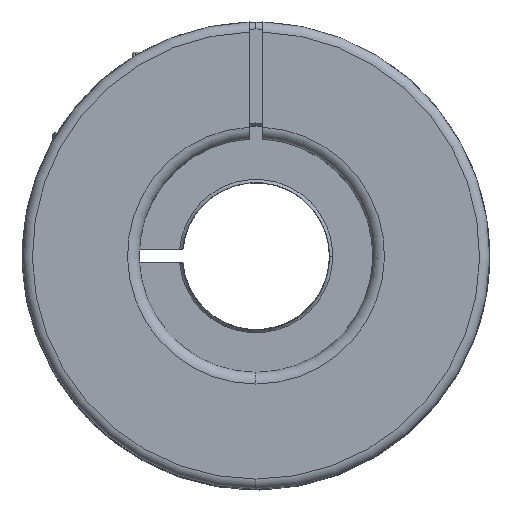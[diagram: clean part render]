
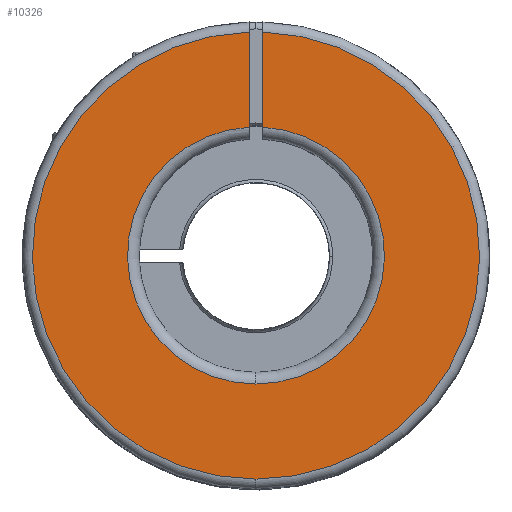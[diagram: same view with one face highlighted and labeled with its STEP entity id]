
A CAD part, top view. The second image highlights one B-rep face of the part: STEP entity #10326.
In plain terms, the highlighted planar face has unit normal (0, 0, 1).
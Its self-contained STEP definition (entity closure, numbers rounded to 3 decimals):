
#9990 = EDGE_CURVE ( 'NONE', #10056, #10064, #15153, .T. ) ;
#10056 = VERTEX_POINT ( 'NONE', #15051 ) ;
#10058 = EDGE_CURVE ( 'NONE', #13451, #10056, #15049, .T. ) ;
#10063 = EDGE_CURVE ( 'NONE', #10064, #13433, #15236, .T. ) ;
#10064 = VERTEX_POINT ( 'NONE', #15232 ) ;
#10240 = ORIENTED_EDGE ( 'NONE', *, *, #10058, .T. ) ;
#10304 = ORIENTED_EDGE ( 'NONE', *, *, #10063, .T. ) ;
#10305 = ORIENTED_EDGE ( 'NONE', *, *, #13432, .T. ) ;
#10306 = ORIENTED_EDGE ( 'NONE', *, *, #10307, .F. ) ;
#10307 = EDGE_CURVE ( 'NONE', #13454, #13434, #15804, .T. ) ;
#10308 = ORIENTED_EDGE ( 'NONE', *, *, #13453, .T. ) ;
#10326 = ADVANCED_FACE ( 'NONE', ( #15780 ), #15779, .F. ) ;
#10327 = EDGE_LOOP ( 'NONE', ( #10328, #10304, #10305, #10306, #10308, #10240 ) ) ;
#10328 = ORIENTED_EDGE ( 'NONE', *, *, #9990, .T. ) ;
#13432 = EDGE_CURVE ( 'NONE', #13433, #13434, #14021, .T. ) ;
#13433 = VERTEX_POINT ( 'NONE', #14016 ) ;
#13434 = VERTEX_POINT ( 'NONE', #14015 ) ;
#13451 = VERTEX_POINT ( 'NONE', #14030 ) ;
#13453 = EDGE_CURVE ( 'NONE', #13454, #13451, #14029, .T. ) ;
#13454 = VERTEX_POINT ( 'NONE', #14024 ) ;
#14015 = CARTESIAN_POINT ( 'NONE',  ( -0.172, 37.159, 62.541 ) ) ;
#14016 = CARTESIAN_POINT ( 'NONE',  ( -1.172, -29.826, 62.541 ) ) ;
#14017 = DIRECTION ( 'NONE',  ( 0., -1., 0. ) ) ;
#14018 = DIRECTION ( 'NONE',  ( 0., 0., 1. ) ) ;
#14019 = CARTESIAN_POINT ( 'NONE',  ( -1.172, 3.674, 62.541 ) ) ;
#14020 = AXIS2_PLACEMENT_3D ( 'NONE', #14019, #14018, #14017 ) ;
#14021 = CIRCLE ( 'NONE', #14020, 33.5 ) ;
#14024 = CARTESIAN_POINT ( 'NONE',  ( -0.172, 22.898, 62.541 ) ) ;
#14025 = DIRECTION ( 'NONE',  ( 0., -1., 0. ) ) ;
#14026 = DIRECTION ( 'NONE',  ( 0., 0., -1. ) ) ;
#14027 = CARTESIAN_POINT ( 'NONE',  ( -1.172, 3.674, 62.541 ) ) ;
#14028 = AXIS2_PLACEMENT_3D ( 'NONE', #14027, #14026, #14025 ) ;
#14029 = CIRCLE ( 'NONE', #14028, 19.25 ) ;
#14030 = CARTESIAN_POINT ( 'NONE',  ( -1.172, -15.576, 62.541 ) ) ;
#15048 = AXIS2_PLACEMENT_3D ( 'NONE', #15052, #15245, #15244 ) ;
#15049 = CIRCLE ( 'NONE', #15048, 19.25 ) ;
#15051 = CARTESIAN_POINT ( 'NONE',  ( -2.172, 22.898, 62.541 ) ) ;
#15052 = CARTESIAN_POINT ( 'NONE',  ( -1.172, 3.674, 62.541 ) ) ;
#15150 = DIRECTION ( 'NONE',  ( 0., 1., 0. ) ) ;
#15151 = VECTOR ( 'NONE', #15150, 1000. ) ;
#15152 = CARTESIAN_POINT ( 'NONE',  ( -2.172, 3.674, 62.541 ) ) ;
#15153 = LINE ( 'NONE', #15152, #15151 ) ;
#15232 = CARTESIAN_POINT ( 'NONE',  ( -2.172, 37.159, 62.541 ) ) ;
#15233 = DIRECTION ( 'NONE',  ( 0., -1., 0. ) ) ;
#15234 = DIRECTION ( 'NONE',  ( 0., 0., 1. ) ) ;
#15235 = AXIS2_PLACEMENT_3D ( 'NONE', #15241, #15234, #15233 ) ;
#15236 = CIRCLE ( 'NONE', #15235, 33.5 ) ;
#15241 = CARTESIAN_POINT ( 'NONE',  ( -1.172, 3.674, 62.541 ) ) ;
#15244 = DIRECTION ( 'NONE',  ( 0., -1., 0. ) ) ;
#15245 = DIRECTION ( 'NONE',  ( 0., 0., -1. ) ) ;
#15775 = DIRECTION ( 'NONE',  ( 0., -1., 0. ) ) ;
#15776 = DIRECTION ( 'NONE',  ( 0., 0., -1. ) ) ;
#15777 = CARTESIAN_POINT ( 'NONE',  ( -1.172, 3.674, 62.541 ) ) ;
#15778 = AXIS2_PLACEMENT_3D ( 'NONE', #15777, #15776, #15775 ) ;
#15779 = PLANE ( 'NONE',  #15778 ) ;
#15780 = FACE_OUTER_BOUND ( 'NONE', #10327, .T. ) ;
#15796 = DIRECTION ( 'NONE',  ( 0., 1., 0. ) ) ;
#15797 = VECTOR ( 'NONE', #15796, 1000. ) ;
#15798 = CARTESIAN_POINT ( 'NONE',  ( -0.172, 3.674, 62.541 ) ) ;
#15804 = LINE ( 'NONE', #15798, #15797 ) ;
